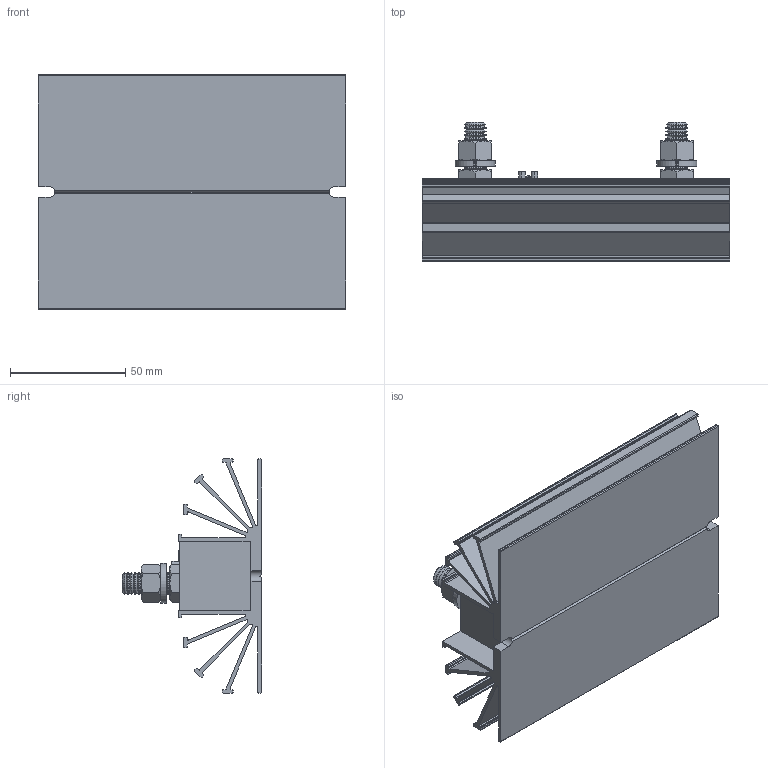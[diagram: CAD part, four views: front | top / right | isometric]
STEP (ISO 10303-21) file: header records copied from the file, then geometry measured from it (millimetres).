
FILE_DESCRIPTION (( 'STEP AP214' ), '1' );
FILE_NAME ('40003-2-XXX.STEP', '2021-01-28T15:25:21', ( '' ), ( '' ), 'SwSTEP 2.0', 'SolidWorks 2020', '' );
FILE_SCHEMA (( 'AUTOMOTIVE_DESIGN' ));
Length unit declared in the file: millimetre
Products named in the file (1): 40003-2-XXX
Bounding box: 133.35 x 60.33 x 101.6 mm (x, y, z)
Volume: 204837.1 mm3; surface area: 98150.1 mm2
Topology: 1 solids, 17 shells, 1044 faces, 2733 edges, 1771 vertices
Faces by surface type: plane 563, cone 176, cylinder 163, bspline 140, torus 2
Entity records: 50838 total; most frequent: CARTESIAN_POINT 14257, ORIENTED_EDGE 5466, DIRECTION 4718, EDGE_CURVE 2733, LINE 1830, VECTOR 1830, VERTEX_POINT 1771, AXIS2_PLACEMENT_3D 1444
